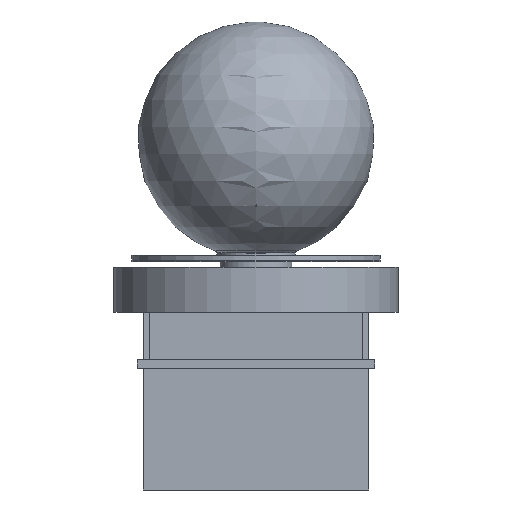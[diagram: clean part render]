
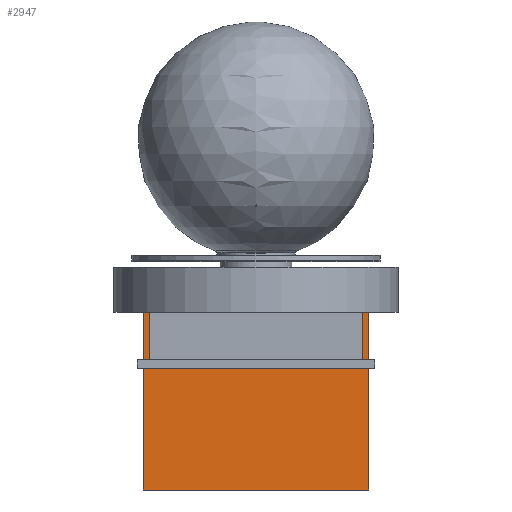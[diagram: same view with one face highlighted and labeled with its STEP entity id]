
A CAD part, left-side view. The second image highlights one B-rep face of the part: STEP entity #2947.
In plain terms, the highlighted planar face has unit normal (-1, 0, 0).
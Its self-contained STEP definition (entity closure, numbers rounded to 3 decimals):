
#112=PLANE('',#3347);
#556=FACE_OUTER_BOUND('',#750,.T.);
#750=EDGE_LOOP('',(#2418,#2419,#2420,#2421));
#1005=LINE('',#5192,#1220);
#1013=LINE('',#5207,#1228);
#1014=LINE('',#5209,#1229);
#1015=LINE('',#5210,#1230);
#1220=VECTOR('',#3991,10.);
#1228=VECTOR('',#4003,10.);
#1229=VECTOR('',#4006,10.);
#1230=VECTOR('',#4007,10.);
#1472=VERTEX_POINT('',#5188);
#1474=VERTEX_POINT('',#5191);
#1478=VERTEX_POINT('',#5203);
#1479=VERTEX_POINT('',#5205);
#1806=EDGE_CURVE('',#1472,#1474,#1005,.T.);
#1814=EDGE_CURVE('',#1478,#1479,#1013,.T.);
#1815=EDGE_CURVE('',#1478,#1472,#1014,.T.);
#1816=EDGE_CURVE('',#1474,#1479,#1015,.T.);
#2418=ORIENTED_EDGE('',*,*,#1815,.F.);
#2419=ORIENTED_EDGE('',*,*,#1814,.T.);
#2420=ORIENTED_EDGE('',*,*,#1816,.F.);
#2421=ORIENTED_EDGE('',*,*,#1806,.F.);
#2947=ADVANCED_FACE('',(#556),#112,.T.);
#3347=AXIS2_PLACEMENT_3D('',#5208,#4004,#4005);
#3991=DIRECTION('',(0.,0.,-1.));
#4003=DIRECTION('',(0.,0.,-1.));
#4004=DIRECTION('center_axis',(-1.,0.,0.));
#4005=DIRECTION('ref_axis',(0.,1.,0.));
#4006=DIRECTION('',(0.,-1.,0.));
#4007=DIRECTION('',(0.,1.,0.));
#5188=CARTESIAN_POINT('',(2850.,-950.,-70.));
#5191=CARTESIAN_POINT('',(2850.,-950.,-1950.));
#5192=CARTESIAN_POINT('',(2850.,-950.,-70.));
#5203=CARTESIAN_POINT('',(2850.,950.,-70.));
#5205=CARTESIAN_POINT('',(2850.,950.,-1950.));
#5207=CARTESIAN_POINT('',(2850.,950.,-70.));
#5208=CARTESIAN_POINT('Origin',(2850.,-950.,-70.));
#5209=CARTESIAN_POINT('',(2850.,950.,-70.));
#5210=CARTESIAN_POINT('',(2850.,950.,-1950.));
